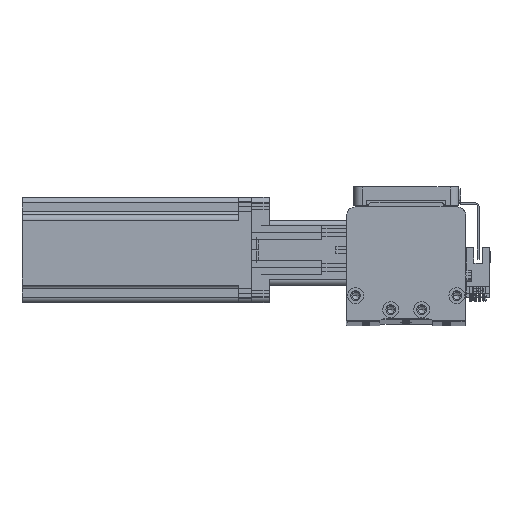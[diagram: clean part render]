
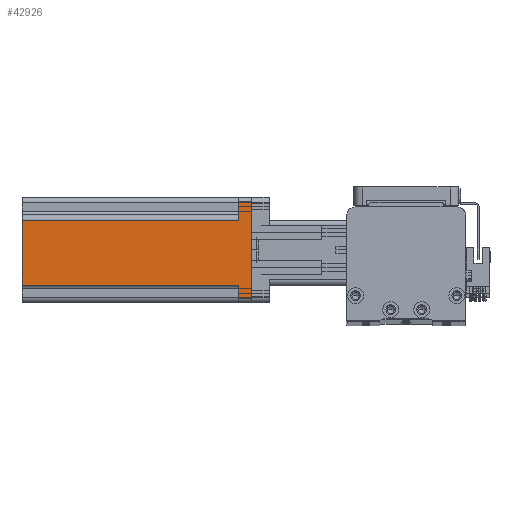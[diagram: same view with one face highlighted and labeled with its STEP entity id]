
A CAD part, top view. The second image highlights one B-rep face of the part: STEP entity #42926.
In plain terms, the highlighted planar face has unit normal (0, 0, 1) as drawn and (-1, 0, 0) by its records, which use the part's own axes.
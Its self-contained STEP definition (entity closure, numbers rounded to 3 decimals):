
#782 = DIRECTION ( 'NONE',  ( 0., -1., 0. ) ) ;
#1083 = ORIENTED_EDGE ( 'NONE', *, *, #33462, .T. ) ;
#2956 = CARTESIAN_POINT ( 'NONE',  ( -30., 27., 7.5 ) ) ;
#3123 = DIRECTION ( 'NONE',  ( 0., 0., 1. ) ) ;
#3624 = DIRECTION ( 'NONE',  ( 0., 1., 0. ) ) ;
#3751 = LINE ( 'NONE', #44248, #43357 ) ;
#4704 = LINE ( 'NONE', #37706, #36246 ) ;
#5211 = AXIS2_PLACEMENT_3D ( 'NONE', #42295, #18704, #46325 ) ;
#5524 = DIRECTION ( 'NONE',  ( 0., 0., -1. ) ) ;
#5929 = VERTEX_POINT ( 'NONE', #12585 ) ;
#7528 = VECTOR ( 'NONE', #5524, 1000. ) ;
#8148 = CARTESIAN_POINT ( 'NONE',  ( -30., -27., 0. ) ) ;
#8300 = VECTOR ( 'NONE', #3624, 1000. ) ;
#8492 = ORIENTED_EDGE ( 'NONE', *, *, #21147, .T. ) ;
#8611 = EDGE_CURVE ( 'NONE', #25937, #33531, #4704, .T. ) ;
#10219 = VERTEX_POINT ( 'NONE', #36907 ) ;
#11893 = EDGE_CURVE ( 'NONE', #37025, #21050, #3751, .T. ) ;
#12180 = LINE ( 'NONE', #16849, #21458 ) ;
#12585 = CARTESIAN_POINT ( 'NONE',  ( -30., -17., 130.7 ) ) ;
#12986 = DIRECTION ( 'NONE',  ( 0., 0., 1. ) ) ;
#14721 = ORIENTED_EDGE ( 'NONE', *, *, #8611, .F. ) ;
#15729 = EDGE_CURVE ( 'NONE', #25937, #5929, #50602, .T. ) ;
#16849 = CARTESIAN_POINT ( 'NONE',  ( -30., -30., 130.7 ) ) ;
#18704 = DIRECTION ( 'NONE',  ( 1., 0., 0. ) ) ;
#18991 = VECTOR ( 'NONE', #39486, 1000. ) ;
#19110 = VECTOR ( 'NONE', #3123, 1000. ) ;
#19365 = LINE ( 'NONE', #37160, #7528 ) ;
#20942 = LINE ( 'NONE', #36622, #41928 ) ;
#20992 = CARTESIAN_POINT ( 'NONE',  ( -30., 27., 0. ) ) ;
#21050 = VERTEX_POINT ( 'NONE', #8148 ) ;
#21147 = EDGE_CURVE ( 'NONE', #36170, #37025, #19365, .T. ) ;
#21458 = VECTOR ( 'NONE', #32506, 1000. ) ;
#21813 = DIRECTION ( 'NONE',  ( 0., -1., 0. ) ) ;
#22675 = ORIENTED_EDGE ( 'NONE', *, *, #25492, .F. ) ;
#23772 = CARTESIAN_POINT ( 'NONE',  ( -30., 20., 7.5 ) ) ;
#25492 = EDGE_CURVE ( 'NONE', #10219, #5929, #12180, .T. ) ;
#25937 = VERTEX_POINT ( 'NONE', #47693 ) ;
#27306 = CARTESIAN_POINT ( 'NONE',  ( -30., 30., 7.5 ) ) ;
#27831 = FACE_OUTER_BOUND ( 'NONE', #42358, .T. ) ;
#28095 = LINE ( 'NONE', #27306, #8300 ) ;
#29451 = LINE ( 'NONE', #23772, #18991 ) ;
#30661 = EDGE_CURVE ( 'NONE', #41406, #10219, #29451, .T. ) ;
#32506 = DIRECTION ( 'NONE',  ( 0., -1., 0. ) ) ;
#33462 = EDGE_CURVE ( 'NONE', #21050, #33531, #20942, .T. ) ;
#33531 = VERTEX_POINT ( 'NONE', #45124 ) ;
#34308 = CARTESIAN_POINT ( 'NONE',  ( -30., 20., 7.5 ) ) ;
#36170 = VERTEX_POINT ( 'NONE', #2956 ) ;
#36246 = VECTOR ( 'NONE', #21813, 1000. ) ;
#36622 = CARTESIAN_POINT ( 'NONE',  ( -30., -27., 130.7 ) ) ;
#36907 = CARTESIAN_POINT ( 'NONE',  ( -30., 20., 130.7 ) ) ;
#37025 = VERTEX_POINT ( 'NONE', #20992 ) ;
#37160 = CARTESIAN_POINT ( 'NONE',  ( -30., 27., 130.7 ) ) ;
#37706 = CARTESIAN_POINT ( 'NONE',  ( -30., -30., 7.5 ) ) ;
#38240 = ORIENTED_EDGE ( 'NONE', *, *, #30661, .F. ) ;
#39486 = DIRECTION ( 'NONE',  ( 0., 0., 1. ) ) ;
#41406 = VERTEX_POINT ( 'NONE', #34308 ) ;
#41928 = VECTOR ( 'NONE', #12986, 1000. ) ;
#42295 = CARTESIAN_POINT ( 'NONE',  ( -30., -30., 130.7 ) ) ;
#42358 = EDGE_LOOP ( 'NONE', ( #14721, #50325, #22675, #38240, #48267, #8492, #51095, #1083 ) ) ;
#42926 = ADVANCED_FACE ( 'NONE', ( #27831 ), #50129, .F. ) ;
#43357 = VECTOR ( 'NONE', #782, 1000. ) ;
#44248 = CARTESIAN_POINT ( 'NONE',  ( -30., -30., 0. ) ) ;
#45124 = CARTESIAN_POINT ( 'NONE',  ( -30., -27., 7.5 ) ) ;
#46325 = DIRECTION ( 'NONE',  ( 0., 0., -1. ) ) ;
#46535 = CARTESIAN_POINT ( 'NONE',  ( -30., -17., 130.7 ) ) ;
#47693 = CARTESIAN_POINT ( 'NONE',  ( -30., -17., 7.5 ) ) ;
#48239 = EDGE_CURVE ( 'NONE', #41406, #36170, #28095, .T. ) ;
#48267 = ORIENTED_EDGE ( 'NONE', *, *, #48239, .T. ) ;
#50129 = PLANE ( 'NONE',  #5211 ) ;
#50325 = ORIENTED_EDGE ( 'NONE', *, *, #15729, .T. ) ;
#50602 = LINE ( 'NONE', #46535, #19110 ) ;
#51095 = ORIENTED_EDGE ( 'NONE', *, *, #11893, .T. ) ;
